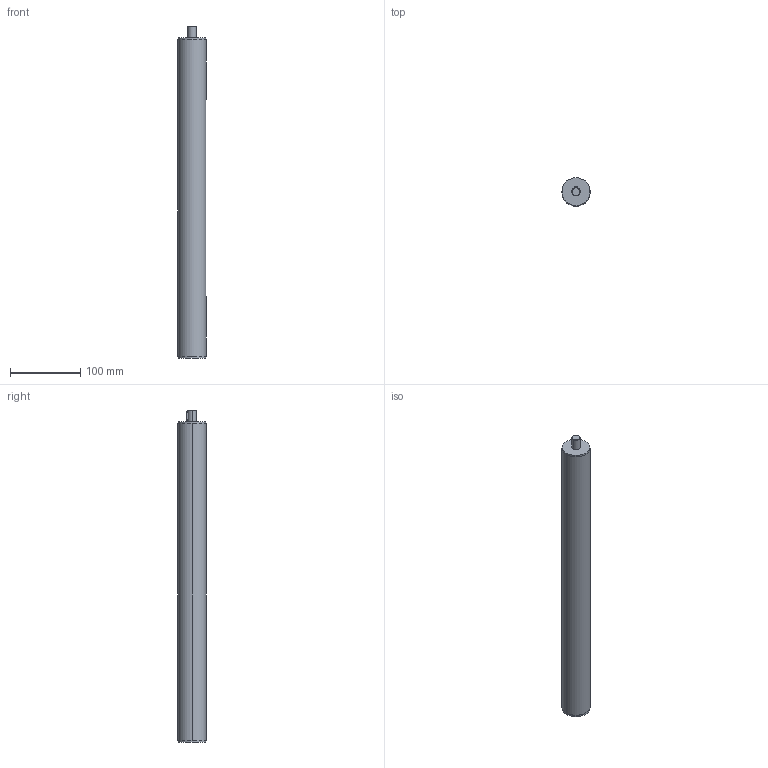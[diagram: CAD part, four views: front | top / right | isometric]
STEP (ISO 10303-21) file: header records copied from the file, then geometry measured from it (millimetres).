
FILE_DESCRIPTION (( 'STEP AP214' ), '1' );
FILE_NAME ('291-40-220-L1-SCR.step', '2023-08-30T05:20:38', ( '' ), ( '' ), 'SwSTEP 2.0', 'SolidWorks 2022', '' );
FILE_SCHEMA (( 'AUTOMOTIVE_DESIGN' ));
Length unit declared in the file: millimetre
Products named in the file (3): 291-40-220-L1-SCR; WB2910 Rund^WBVES_40-220-1; WB2910 mutter^WBVES_Tr20-M5
Assembly tree (2 placements, depth 2):
  291-40-220-L1-SCR
    WB2910 mutter^WBVES_Tr20-M5
    WB2910 Rund^WBVES_40-220-1
Bounding box: 40 x 40 x 472 mm (x, y, z)
Volume: 286403.6 mm3; surface area: 149644.6 mm2
Topology: 2 solids, 2 shells, 48 faces, 112 edges, 70 vertices
Faces by surface type: cylinder 25, plane 17, cone 6
Entity records: 1847 total; most frequent: CARTESIAN_POINT 426, DIRECTION 246, ORIENTED_EDGE 216, EDGE_CURVE 108, AXIS2_PLACEMENT_3D 96, VERTEX_POINT 70, EDGE_LOOP 58, VECTOR 54
